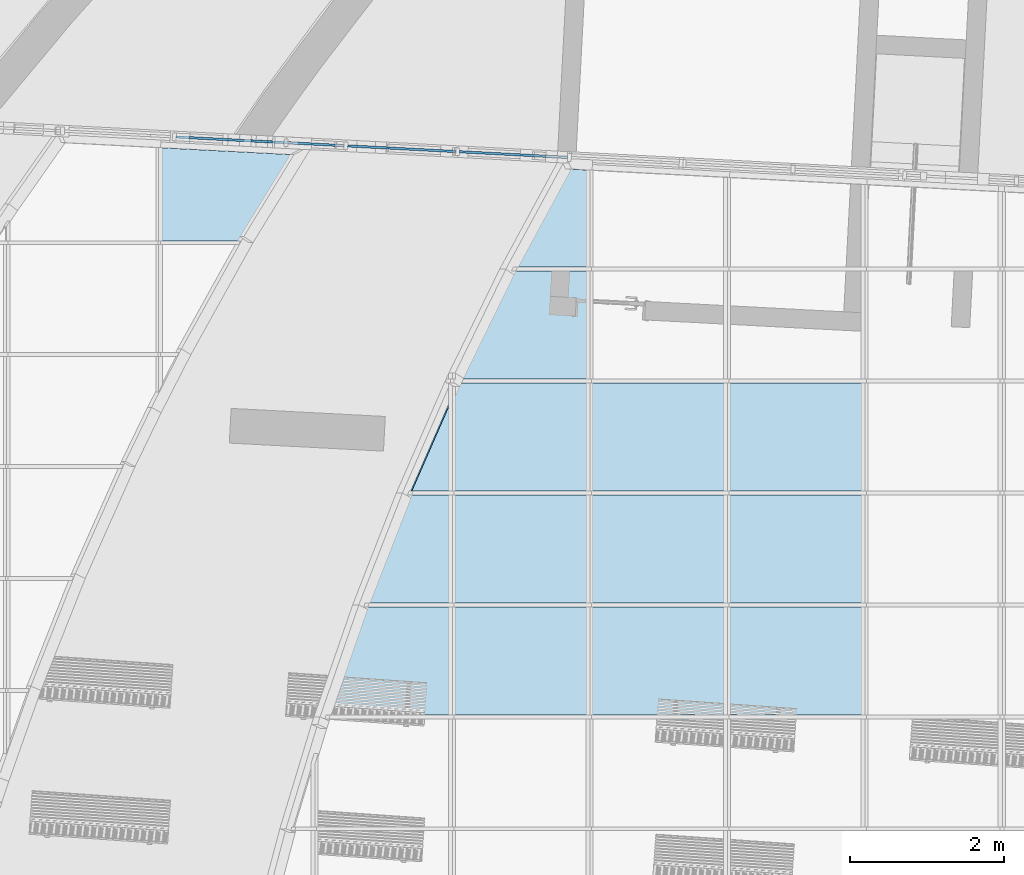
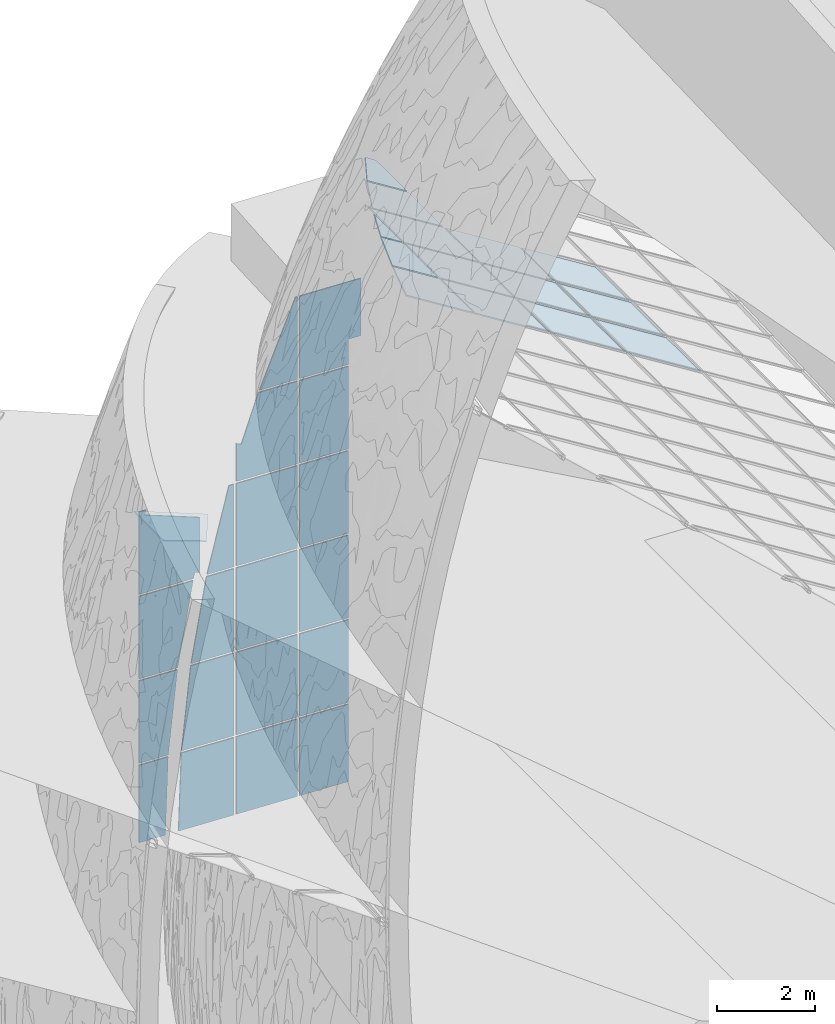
# One storey, part 43 of 82: 35 plates, 2 elements without a shape of their own.
"""IFC2X3 building model written with IfcOpenShell, lengths in millimetres."""

from ifc_helpers import new_model, entity, si_unit, converted_unit, derived_unit, direction, frame, frame_2d, origin, place, context, subcontext, project, spatial, polyline, rectangle, outline, extrude, source, transform, mapped, material, layer, layer_set, layer_usage, type_object, type_shapes, element, aggregate, save


model = new_model("IFC2X3")

# Units and contexts
model_context = context("Model", 3, precision=0.01, world=origin(), true_north=direction((6.12303176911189e-17, 1.0)))
body_context = subcontext(model_context, "Body", "Model", "MODEL_VIEW")
ifc_project = project(units=[si_unit("LENGTHUNIT", "METRE", prefix="MILLI"), si_unit("AREAUNIT", "SQUARE_METRE"), si_unit("VOLUMEUNIT", "CUBIC_METRE"), converted_unit("PLANEANGLEUNIT", "DEGREE", entity("IfcRatioMeasure", 0.0174532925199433), si_unit("PLANEANGLEUNIT", "RADIAN"), dimensions=[0, 0, 0, 0, 0, 0, 0]), si_unit("MASSUNIT", "GRAM", prefix="KILO"), derived_unit("MASSDENSITYUNIT", [(si_unit("MASSUNIT", "GRAM", prefix="KILO"), 1), (si_unit("LENGTHUNIT", "METRE"), -3)]), si_unit("TIMEUNIT", "SECOND"), si_unit("FREQUENCYUNIT", "HERTZ"), si_unit("THERMODYNAMICTEMPERATUREUNIT", "DEGREE_CELSIUS"), derived_unit("THERMALTRANSMITTANCEUNIT", [(si_unit("MASSUNIT", "GRAM", prefix="KILO"), 1), (si_unit("THERMODYNAMICTEMPERATUREUNIT", "KELVIN"), -1), (si_unit("TIMEUNIT", "SECOND"), -3)]), derived_unit("VOLUMETRICFLOWRATEUNIT", [(si_unit("LENGTHUNIT", "METRE"), 3), (si_unit("TIMEUNIT", "SECOND"), -1)]), si_unit("ELECTRICCURRENTUNIT", "AMPERE"), si_unit("ELECTRICVOLTAGEUNIT", "VOLT"), si_unit("POWERUNIT", "WATT"), si_unit("FORCEUNIT", "NEWTON", prefix="KILO"), si_unit("ILLUMINANCEUNIT", "LUX"), si_unit("LUMINOUSFLUXUNIT", "LUMEN"), si_unit("LUMINOUSINTENSITYUNIT", "CANDELA"), derived_unit("USERDEFINED", [(si_unit("MASSUNIT", "GRAM", prefix="KILO"), -1), (si_unit("LENGTHUNIT", "METRE"), -2), (si_unit("TIMEUNIT", "SECOND"), 3), (si_unit("LUMINOUSFLUXUNIT", "LUMEN"), 1)]), derived_unit("LINEARVELOCITYUNIT", [(si_unit("LENGTHUNIT", "METRE"), 1), (si_unit("TIMEUNIT", "SECOND"), -1)]), si_unit("PRESSUREUNIT", "PASCAL"), derived_unit("USERDEFINED", [(si_unit("LENGTHUNIT", "METRE"), -2), (si_unit("MASSUNIT", "GRAM", prefix="KILO"), 1), (si_unit("TIMEUNIT", "SECOND"), -2)])], contexts=[model_context])

# Site, building, storey
site_placement = place(None, origin())
site = spatial("IfcSite", under=ifc_project, at=site_placement, Name="表面", CompositionType="ELEMENT")
building_placement = place(site_placement, origin())
building = spatial("IfcBuilding", under=site, at=building_placement, CompositionType="ELEMENT")
storey_placement = place(building_placement, origin())
storey = spatial("IfcBuildingStorey", under=building, at=storey_placement, Name="1F", CompositionType="ELEMENT", Elevation=0.0)

# Curtain wall, plates
curtain_wall_type = type_object("IfcCurtainWallType", Name="幕墙系统:1450 x 2100mm", PredefinedType="NOTDEFINED")
curtain_wall_1_placement = place(storey_placement, origin())
curtain_wall_1 = element("IfcCurtainWall", 1, at=curtain_wall_1_placement, inside=storey, type_object=curtain_wall_type, Name="幕墙系统:1450 x 2100mm", ObjectType="幕墙系统:1450 x 2100mm")
ifc_material = material(Name="<Unnamed>")
ifc_layer = layer(ifc_material, 30.0)
ifc_layer_set = layer_set([ifc_layer], Name="幕墙系统:1450 x 2100mm")
ifc_layer_usage_1 = layer_usage(ifc_layer_set, "AXIS3", "POSITIVE", 0.0)
plate_type_1 = type_object("IfcPlateType", Name="玻璃", PredefinedType="CURTAIN_PANEL", material=ifc_layer_set)
shared_shape_1 = source(origin(), body_context, "Body", "SweptSolid", [
    extrude(rectangle(XDim=30.0, YDim=1400.0, at=frame_2d((0.0, 3.97903932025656e-13), x_axis=(1.0, 0.0))), frame((0.0, 0.0, 0.0), z_axis=(0.0, 0.0, 1.0), x_axis=(0.0, 1.0, 0.0)), (0.0, 0.0, 1.0), 2050.0),
])
type_shapes(plate_type_1, [shared_shape_1])
plate_1_placement = place(curtain_wall_1_placement, frame((-21721.201817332, -1063.90315351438, 13269.1102335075), z_axis=(-0.848048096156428, 0.0, 0.529919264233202), x_axis=(0.0, -1.0, 0.0)))
plate_1 = element("IfcPlate", 2, at=plate_1_placement, type_object=plate_type_1, material=ifc_layer_usage_1, Name="系统嵌板:玻璃", ObjectType="玻璃", context=body_context, shape_type="MappedRepresentation", body=[
    mapped(shared_shape_1, transform((0.0, 0.0, 0.0), scale=1.0)),
])
ifc_layer_usage_2 = layer_usage(ifc_layer_set, "AXIS3", "POSITIVE", 0.0)
plate_2_placement = place(curtain_wall_1_placement, frame((-21721.201817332, -2513.90315351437, 13269.1102335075), z_axis=(-0.848048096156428, 0.0, 0.529919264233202), x_axis=(0.0, -1.0, 0.0)))
plate_2 = element("IfcPlate", 3, at=plate_2_placement, type_object=plate_type_1, material=ifc_layer_usage_2, Name="系统嵌板:玻璃", ObjectType="玻璃", context=body_context, shape_type="MappedRepresentation", body=[
    mapped(shared_shape_1, transform((0.0, 0.0, 0.0), scale=1.0)),
])
ifc_layer_usage_3 = layer_usage(ifc_layer_set, "AXIS3", "POSITIVE", 0.0)
plate_3_placement = place(curtain_wall_1_placement, frame((-21721.201817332, -3963.90315351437, 13269.1102335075), z_axis=(-0.848048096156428, 0.0, 0.529919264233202), x_axis=(0.0, -1.0, 0.0)))
plate_3 = element("IfcPlate", 4, at=plate_3_placement, type_object=plate_type_1, material=ifc_layer_usage_3, Name="系统嵌板:玻璃", ObjectType="玻璃", context=body_context, shape_type="MappedRepresentation", body=[
    mapped(shared_shape_1, transform((0.0, 0.0, 0.0), scale=1.0)),
])
ifc_layer_usage_4 = layer_usage(ifc_layer_set, "AXIS3", "POSITIVE", 0.0)
plate_4_placement = place(curtain_wall_1_placement, frame((-23502.1028192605, -1063.90315351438, 14381.9406883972), z_axis=(-0.848048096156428, 0.0, 0.529919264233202), x_axis=(0.0, -1.0, 0.0)))
plate_4 = element("IfcPlate", 5, at=plate_4_placement, type_object=plate_type_1, material=ifc_layer_usage_4, Name="系统嵌板:玻璃", ObjectType="玻璃", context=body_context, shape_type="MappedRepresentation", body=[
    mapped(shared_shape_1, transform((0.0, 0.0, 0.0), scale=1.0)),
])
ifc_layer_usage_5 = layer_usage(ifc_layer_set, "AXIS3", "POSITIVE", 0.0)
plate_5_placement = place(curtain_wall_1_placement, frame((-23502.1028192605, -2513.90315351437, 14381.9406883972), z_axis=(-0.848048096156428, 0.0, 0.529919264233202), x_axis=(0.0, -1.0, 0.0)))
plate_5 = element("IfcPlate", 6, at=plate_5_placement, type_object=plate_type_1, material=ifc_layer_usage_5, Name="系统嵌板:玻璃", ObjectType="玻璃", context=body_context, shape_type="MappedRepresentation", body=[
    mapped(shared_shape_1, transform((0.0, 0.0, 0.0), scale=1.0)),
])
ifc_layer_usage_6 = layer_usage(ifc_layer_set, "AXIS3", "POSITIVE", 0.0)
plate_6_placement = place(curtain_wall_1_placement, frame((-23502.1028192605, -3963.90315351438, 14381.9406883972), z_axis=(-0.848048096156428, 0.0, 0.529919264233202), x_axis=(0.0, -1.0, 0.0)))
plate_6 = element("IfcPlate", 7, at=plate_6_placement, type_object=plate_type_1, material=ifc_layer_usage_6, Name="系统嵌板:玻璃", ObjectType="玻璃", context=body_context, shape_type="MappedRepresentation", body=[
    mapped(shared_shape_1, transform((0.0, 0.0, 0.0), scale=1.0)),
])
ifc_layer_usage_7 = layer_usage(ifc_layer_set, "AXIS3", "POSITIVE", 0.0)
plate_7_placement = place(curtain_wall_1_placement, frame((-25283.003821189, -1063.90315351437, 15494.7711432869), z_axis=(-0.848048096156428, 0.0, 0.529919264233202), x_axis=(0.0, -1.0, 0.0)))
plate_7 = element("IfcPlate", 8, at=plate_7_placement, type_object=plate_type_1, material=ifc_layer_usage_7, Name="系统嵌板:玻璃", ObjectType="玻璃", context=body_context, shape_type="MappedRepresentation", body=[
    mapped(shared_shape_1, transform((0.0, 0.0, 0.0), scale=1.0)),
])
ifc_layer_usage_8 = layer_usage(ifc_layer_set, "AXIS3", "POSITIVE", 0.0)
plate_8_placement = place(curtain_wall_1_placement, frame((-25283.003821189, -2513.90315351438, 15494.7711432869), z_axis=(-0.848048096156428, 0.0, 0.529919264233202), x_axis=(0.0, -1.0, 0.0)))
plate_8 = element("IfcPlate", 9, at=plate_8_placement, type_object=plate_type_1, material=ifc_layer_usage_8, Name="系统嵌板:玻璃", ObjectType="玻璃", context=body_context, shape_type="MappedRepresentation", body=[
    mapped(shared_shape_1, transform((0.0, 0.0, 0.0), scale=1.0)),
])
ifc_layer_usage_9 = layer_usage(ifc_layer_set, "AXIS3", "POSITIVE", 0.0)
plate_9_placement = place(curtain_wall_1_placement, frame((-25283.003821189, -3963.90315351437, 15494.7711432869), z_axis=(-0.848048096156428, 0.0, 0.529919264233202), x_axis=(0.0, -1.0, 0.0)))
plate_9 = element("IfcPlate", 10, at=plate_9_placement, type_object=plate_type_1, material=ifc_layer_usage_9, Name="系统嵌板:玻璃", ObjectType="玻璃", context=body_context, shape_type="MappedRepresentation", body=[
    mapped(shared_shape_1, transform((0.0, 0.0, 0.0), scale=1.0)),
])
ifc_layer_usage_10 = layer_usage(ifc_layer_set, "AXIS3", "POSITIVE", 0.0)
plate_10_placement = place(curtain_wall_1_placement, frame((-27694.2813366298, 2670.81273055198, 2125.0), z_axis=(0.0, 0.0, 1.0), x_axis=(0.998629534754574, -0.0523359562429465, 0.0)))
plate_10 = element("IfcPlate", 11, at=plate_10_placement, type_object=plate_type_1, material=ifc_layer_usage_10, Name="系统嵌板:玻璃", ObjectType="玻璃", context=body_context, shape_type="MappedRepresentation", body=[
    mapped(shared_shape_1, transform((0.0, 0.0, 0.0), scale=1.0)),
])
ifc_layer_usage_11 = layer_usage(ifc_layer_set, "AXIS3", "POSITIVE", 0.0)
plate_11_placement = place(curtain_wall_1_placement, frame((-27694.2813366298, 2670.81273055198, 4225.0), z_axis=(0.0, 0.0, 1.0), x_axis=(0.998629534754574, -0.0523359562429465, 0.0)))
plate_11 = element("IfcPlate", 12, at=plate_11_placement, type_object=plate_type_1, material=ifc_layer_usage_11, Name="系统嵌板:玻璃", ObjectType="玻璃", context=body_context, shape_type="MappedRepresentation", body=[
    mapped(shared_shape_1, transform((0.0, 0.0, 0.0), scale=1.0)),
])
ifc_layer_usage_12 = layer_usage(ifc_layer_set, "AXIS3", "POSITIVE", 0.0)
plate_12_placement = place(curtain_wall_1_placement, frame((-27694.2813366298, 2670.81273055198, 6325.0), z_axis=(0.0, 0.0, 1.0), x_axis=(0.998629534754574, -0.0523359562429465, 0.0)))
plate_12 = element("IfcPlate", 13, at=plate_12_placement, type_object=plate_type_1, material=ifc_layer_usage_12, Name="系统嵌板:玻璃", ObjectType="玻璃", context=body_context, shape_type="MappedRepresentation", body=[
    mapped(shared_shape_1, transform((0.0, 0.0, 0.0), scale=1.0)),
])
ifc_layer_usage_13 = layer_usage(ifc_layer_set, "AXIS3", "POSITIVE", 0.0)
plate_type_2 = type_object("IfcPlateType", Name="玻璃", PredefinedType="CURTAIN_PANEL", material=ifc_layer_set)
shared_shape_2 = source(origin(), body_context, "Body", "SweptSolid", [
    extrude(rectangle(XDim=30.0, YDim=1400.0, at=frame_2d((0.0, 3.97903932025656e-13), x_axis=(1.0, 0.0))), frame((0.0, 0.0, 0.0), z_axis=(0.0, 0.0, 1.0), x_axis=(0.0, 1.0, 0.0)), (0.0, 0.0, 1.0), 1925.0),
])
type_shapes(plate_type_2, [shared_shape_2])
plate_13_placement = place(curtain_wall_1_placement, frame((-27694.2813366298, 2670.81273055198, 150.0), z_axis=(0.0, 0.0, 1.0), x_axis=(0.998629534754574, -0.0523359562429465, 0.0)))
plate_13 = element("IfcPlate", 14, at=plate_13_placement, type_object=plate_type_2, material=ifc_layer_usage_13, Name="系统嵌板:玻璃", ObjectType="玻璃", context=body_context, shape_type="MappedRepresentation", body=[
    mapped(shared_shape_2, transform((0.0, 0.0, 0.0), scale=1.0)),
])
ifc_layer_usage_14 = layer_usage(ifc_layer_set, "AXIS3", "POSITIVE", 0.0)
plate_type_3 = type_object("IfcPlateType", Name="玻璃", PredefinedType="CURTAIN_PANEL", material=ifc_layer_set)
shared_shape_3 = source(origin(), body_context, "Body", "SweptSolid", [
    extrude(outline(polyline([(-322.106799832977, -640.756538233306), (-26.9639191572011, -640.756538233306), (727.042127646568, 665.31232442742), (-377.97140865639, 616.200752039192), (-322.106799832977, -640.756538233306)])), frame((3.27612190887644, -15.0, 350.239044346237), z_axis=(0.0, 1.0, 0.0), x_axis=(-0.0444004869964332, 0.0, 0.999013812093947)), (0.0, 0.0, 1.0), 30.0),
])
type_shapes(plate_type_3, [shared_shape_3])
plate_14_placement = place(curtain_wall_1_placement, frame((-25283.003821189, 1771.7481453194, 15494.7711432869), z_axis=(-0.848048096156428, 0.0, 0.529919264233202), x_axis=(0.0, -1.0, 0.0)))
plate_14 = element("IfcPlate", 15, at=plate_14_placement, type_object=plate_type_3, material=ifc_layer_usage_14, Name="系统嵌板:玻璃", ObjectType="玻璃", context=body_context, shape_type="MappedRepresentation", body=[
    mapped(shared_shape_3, transform((0.0, 0.0, 0.0), scale=1.0)),
])
ifc_layer_usage_15 = layer_usage(ifc_layer_set, "AXIS3", "POSITIVE", 0.0)
plate_type_4 = type_object("IfcPlateType", Name="玻璃", PredefinedType="CURTAIN_PANEL", material=ifc_layer_set)
shared_shape_4 = source(origin(), body_context, "Body", "SweptSolid", [
    extrude(outline(polyline([(-1197.71911161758, -919.04519146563), (-56.4441678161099, -919.04519146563), (747.320614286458, 475.541441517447), (852.280888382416, 400.639324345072), (852.280888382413, 480.954808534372), (-1197.7191116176, 480.95480853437), (-1197.71911161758, -919.04519146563)])), frame((219.045191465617, -15.0, 1197.71911161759), z_axis=(0.0, 1.0, 0.0), x_axis=(0.0, 0.0, 1.0)), (0.0, 0.0, 1.0), 30.0),
])
type_shapes(plate_type_4, [shared_shape_4])
plate_15_placement = place(curtain_wall_1_placement, frame((-25283.003821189, 386.096846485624, 15494.7711432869), z_axis=(-0.848048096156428, 0.0, 0.529919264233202), x_axis=(0.0, -1.0, 0.0)))
plate_15 = element("IfcPlate", 16, at=plate_15_placement, type_object=plate_type_4, material=ifc_layer_usage_15, Name="系统嵌板:玻璃", ObjectType="玻璃", context=body_context, shape_type="MappedRepresentation", body=[
    mapped(shared_shape_4, transform((0.0, 0.0, 0.0), scale=1.0)),
])
ifc_layer_usage_16 = layer_usage(ifc_layer_set, "AXIS3", "POSITIVE", 0.0)
plate_type_5 = type_object("IfcPlateType", Name="玻璃", PredefinedType="CURTAIN_PANEL", material=ifc_layer_set)
shared_shape_5 = source(origin(), body_context, "Body", "SweptSolid", [
    extrude(outline(polyline([(-779.041423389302, -177.132236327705), (526.372304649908, -177.132236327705), (252.669118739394, 354.26447265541), (-779.041423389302, -177.132236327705)])), frame((193.420174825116, -15.0, 199.247444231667), z_axis=(0.0, 1.0, 0.0), x_axis=(0.889006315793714, 0.0, 0.457894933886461)), (0.0, 0.0, 1.0), 30.0),
])
type_shapes(plate_type_5, [shared_shape_5])
plate_16_placement = place(curtain_wall_1_placement, frame((-27063.9048231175, -1183.64262903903, 16607.6015981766), z_axis=(-0.848048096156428, 0.0, 0.529919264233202), x_axis=(0.0, -1.0, 0.0)))
plate_16 = element("IfcPlate", 17, at=plate_16_placement, type_object=plate_type_5, material=ifc_layer_usage_16, Name="系统嵌板:玻璃", ObjectType="玻璃", context=body_context, shape_type="MappedRepresentation", body=[
    mapped(shared_shape_5, transform((0.0, 0.0, 0.0), scale=1.0)),
])
ifc_layer_usage_17 = layer_usage(ifc_layer_set, "AXIS3", "POSITIVE", 0.0)
plate_type_6 = type_object("IfcPlateType", Name="玻璃", PredefinedType="CURTAIN_PANEL", material=ifc_layer_set)
shared_shape_6 = source(origin(), body_context, "Body", "SweptSolid", [
    extrude(outline(polyline([(-473.857034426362, -700.0), (151.881885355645, -700.0), (795.83218349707, 700.0), (-473.857034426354, 700.0), (-473.857034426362, -700.0)])), frame((0.0, -15.0, 473.857034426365), z_axis=(0.0, 1.0, 0.0), x_axis=(0.0, 0.0, 1.0)), (0.0, 0.0, 1.0), 30.0),
])
type_shapes(plate_type_6, [shared_shape_6])
plate_17_placement = place(curtain_wall_1_placement, frame((-27063.9048231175, -2513.90315351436, 16607.6015981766), z_axis=(-0.848048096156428, 0.0, 0.529919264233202), x_axis=(0.0, -1.0, 0.0)))
plate_17 = element("IfcPlate", 18, at=plate_17_placement, type_object=plate_type_6, material=ifc_layer_usage_17, Name="系统嵌板:玻璃", ObjectType="玻璃", context=body_context, shape_type="MappedRepresentation", body=[
    mapped(shared_shape_6, transform((0.0, 0.0, 0.0), scale=1.0)),
])
ifc_layer_usage_18 = layer_usage(ifc_layer_set, "AXIS3", "POSITIVE", 0.0)
plate_type_7 = type_object("IfcPlateType", Name="玻璃", PredefinedType="CURTAIN_PANEL", material=ifc_layer_set)
shared_shape_7 = source(origin(), body_context, "Body", "SweptSolid", [
    extrude(outline(polyline([(-790.086258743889, -700.0), (504.400580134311, -700.0), (1075.77193735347, 700.0), (-790.086258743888, 700.0), (-790.086258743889, -700.0)])), frame((0.0, -15.0, 790.086258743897), z_axis=(0.0, 1.0, 0.0), x_axis=(0.0, 0.0, 1.0)), (0.0, 0.0, 1.0), 30.0),
])
type_shapes(plate_type_7, [shared_shape_7])
plate_18_placement = place(curtain_wall_1_placement, frame((-27063.9048231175, -3963.90315351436, 16607.6015981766), z_axis=(-0.848048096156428, 0.0, 0.529919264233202), x_axis=(0.0, -1.0, 0.0)))
plate_18 = element("IfcPlate", 19, at=plate_18_placement, type_object=plate_type_7, material=ifc_layer_usage_18, Name="系统嵌板:玻璃", ObjectType="玻璃", context=body_context, shape_type="MappedRepresentation", body=[
    mapped(shared_shape_7, transform((0.0, 0.0, 0.0), scale=1.0)),
])
ifc_layer_usage_19 = layer_usage(ifc_layer_set, "AXIS3", "POSITIVE", 0.0)
plate_type_8 = type_object("IfcPlateType", Name="玻璃", PredefinedType="CURTAIN_PANEL", material=ifc_layer_set)
shared_shape_8 = source(origin(), body_context, "Body", "SweptSolid", [
    extrude(outline(polyline([(-984.001463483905, -618.254018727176), (942.103307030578, -618.254018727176), (982.897009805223, 585.659127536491), (-940.998853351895, 650.848909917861), (-984.001463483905, -618.254018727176)])), frame((16.3067988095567, -15.0, 962.500000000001), z_axis=(0.0, 1.0, 0.0), x_axis=(0.0338648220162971, 0.0, 0.999426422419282)), (0.0, 0.0, 1.0), 30.0),
])
type_shapes(plate_type_8, [shared_shape_8])
plate_19_placement = place(curtain_wall_1_placement, frame((-29077.2940254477, 2743.2933542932, 150.0), z_axis=(0.0, 0.0, 1.0), x_axis=(0.998629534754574, -0.0523359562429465, 0.0)))
plate_19 = element("IfcPlate", 20, at=plate_19_placement, type_object=plate_type_8, material=ifc_layer_usage_19, Name="系统嵌板:玻璃", ObjectType="玻璃", context=body_context, shape_type="MappedRepresentation", body=[
    mapped(shared_shape_8, transform((0.0, 0.0, 0.0), scale=1.0)),
])
ifc_layer_usage_20 = layer_usage(ifc_layer_set, "AXIS3", "POSITIVE", 0.0)
plate_type_9 = type_object("IfcPlateType", Name="玻璃", PredefinedType="CURTAIN_PANEL", material=ifc_layer_set)
shared_shape_9 = source(origin(), body_context, "Body", "SweptSolid", [
    extrude(rectangle(XDim=30.0, YDim=1119.19697744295, at=frame_2d((0.0, 4.54747350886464e-13), x_axis=(1.0, 0.0))), frame((0.0, 0.0, 0.0), z_axis=(0.0, 0.0, 1.0), x_axis=(0.0, 1.0, 0.0)), (0.0, 0.0, 1.0), 1925.0),
])
type_shapes(plate_type_9, [shared_shape_9])
plate_20_placement = place(curtain_wall_1_placement, frame((-26386.4776071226, 2602.27364135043, 150.0), z_axis=(0.0, 0.0, 1.0), x_axis=(0.998629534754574, -0.0523359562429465, 0.0)))
plate_20 = element("IfcPlate", 21, at=plate_20_placement, type_object=plate_type_9, material=ifc_layer_usage_20, Name="系统嵌板:玻璃", ObjectType="玻璃", context=body_context, shape_type="MappedRepresentation", body=[
    mapped(shared_shape_9, transform((0.0, 0.0, 0.0), scale=1.0)),
])
ifc_layer_usage_21 = layer_usage(ifc_layer_set, "AXIS3", "POSITIVE", 0.0)
plate_type_10 = type_object("IfcPlateType", Name="玻璃", PredefinedType="CURTAIN_PANEL", material=ifc_layer_set)
shared_shape_10 = source(origin(), body_context, "Body", "SweptSolid", [
    extrude(outline(polyline([(-1086.10494259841, -544.900370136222), (974.597959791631, -544.900370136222), (1075.42983463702, 440.568423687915), (-963.922851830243, 649.232316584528), (-1086.10494259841, -544.900370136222)])), frame((52.4383280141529, -15.0, 1025.0), z_axis=(0.0, 1.0, 0.0), x_axis=(0.101787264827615, 0.0, 0.994806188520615)), (0.0, 0.0, 1.0), 30.0),
])
type_shapes(plate_type_10, [shared_shape_10])
plate_21_placement = place(curtain_wall_1_placement, frame((-29042.6145407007, 2741.47587951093, 2125.0), z_axis=(0.0, 0.0, 1.0), x_axis=(0.998629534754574, -0.0523359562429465, 0.0)))
plate_21 = element("IfcPlate", 22, at=plate_21_placement, type_object=plate_type_10, material=ifc_layer_usage_21, Name="系统嵌板:玻璃", ObjectType="玻璃", context=body_context, shape_type="MappedRepresentation", body=[
    mapped(shared_shape_10, transform((0.0, 0.0, 0.0), scale=1.0)),
])
ifc_layer_usage_22 = layer_usage(ifc_layer_set, "AXIS3", "POSITIVE", 0.0)
plate_type_11 = type_object("IfcPlateType", Name="玻璃", PredefinedType="CURTAIN_PANEL", material=ifc_layer_set)
shared_shape_11 = source(origin(), body_context, "Body", "SweptSolid", [
    extrude(rectangle(XDim=30.0, YDim=1119.19697744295, at=frame_2d((0.0, 4.54747350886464e-13), x_axis=(1.0, 0.0))), frame((0.0, 0.0, 0.0), z_axis=(0.0, 0.0, 1.0), x_axis=(0.0, 1.0, 0.0)), (0.0, 0.0, 1.0), 2050.0),
])
type_shapes(plate_type_11, [shared_shape_11])
plate_22_placement = place(curtain_wall_1_placement, frame((-26386.4776071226, 2602.27364135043, 2125.0), z_axis=(0.0, 0.0, 1.0), x_axis=(0.998629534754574, -0.0523359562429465, 0.0)))
plate_22 = element("IfcPlate", 23, at=plate_22_placement, type_object=plate_type_11, material=ifc_layer_usage_22, Name="系统嵌板:玻璃", ObjectType="玻璃", context=body_context, shape_type="MappedRepresentation", body=[
    mapped(shared_shape_11, transform((0.0, 0.0, 0.0), scale=1.0)),
])
ifc_layer_usage_23 = layer_usage(ifc_layer_set, "AXIS3", "POSITIVE", 0.0)
plate_23_placement = place(curtain_wall_1_placement, frame((-26386.4776071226, 2602.27364135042, 4225.0), z_axis=(0.0, 0.0, 1.0), x_axis=(0.998629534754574, -0.0523359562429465, 0.0)))
plate_23 = element("IfcPlate", 24, at=plate_23_placement, type_object=plate_type_11, material=ifc_layer_usage_23, Name="系统嵌板:玻璃", ObjectType="玻璃", context=body_context, shape_type="MappedRepresentation", body=[
    mapped(shared_shape_11, transform((0.0, 0.0, 0.0), scale=1.0)),
])
ifc_layer_usage_24 = layer_usage(ifc_layer_set, "AXIS3", "POSITIVE", 0.0)
plate_24_placement = place(curtain_wall_1_placement, frame((-26386.4776071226, 2602.27364135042, 6325.0), z_axis=(0.0, 0.0, 1.0), x_axis=(0.998629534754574, -0.0523359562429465, 0.0)))
plate_24 = element("IfcPlate", 25, at=plate_24_placement, type_object=plate_type_11, material=ifc_layer_usage_24, Name="系统嵌板:玻璃", ObjectType="玻璃", context=body_context, shape_type="MappedRepresentation", body=[
    mapped(shared_shape_11, transform((0.0, 0.0, 0.0), scale=1.0)),
])
ifc_layer_usage_25 = layer_usage(ifc_layer_set, "AXIS3", "POSITIVE", 0.0)
plate_25_placement = place(curtain_wall_1_placement, frame((-26386.4776071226, 2602.27364135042, 8425.0), z_axis=(0.0, 0.0, 1.0), x_axis=(0.998629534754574, -0.0523359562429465, 0.0)))
plate_25 = element("IfcPlate", 26, at=plate_25_placement, type_object=plate_type_11, material=ifc_layer_usage_25, Name="系统嵌板:玻璃", ObjectType="玻璃", context=body_context, shape_type="MappedRepresentation", body=[
    mapped(shared_shape_11, transform((0.0, 0.0, 0.0), scale=1.0)),
])
ifc_layer_usage_26 = layer_usage(ifc_layer_set, "AXIS3", "POSITIVE", 0.0)
plate_type_12 = type_object("IfcPlateType", Name="玻璃", PredefinedType="CURTAIN_PANEL", material=ifc_layer_set)
shared_shape_12 = source(origin(), body_context, "Body", "SweptSolid", [
    extrude(outline(polyline([(-1108.43400157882, -397.100871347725), (971.718122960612, -397.100871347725), (1078.50040687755, 223.212415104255), (-941.784528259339, 570.989327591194), (-1108.43400157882, -397.100871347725)])), frame((88.2230345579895, -15.0, 1025.0), z_axis=(0.0, 1.0, 0.0), x_axis=(0.169647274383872, 0.0, 0.985504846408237)), (0.0, 0.0, 1.0), 30.0),
])
type_shapes(plate_type_12, [shared_shape_12])
plate_26_placement = place(curtain_wall_1_placement, frame((-28933.744969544, 2735.77026705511, 4225.0), z_axis=(0.0, 0.0, 1.0), x_axis=(0.998629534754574, -0.0523359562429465, 0.0)))
plate_26 = element("IfcPlate", 27, at=plate_26_placement, type_object=plate_type_12, material=ifc_layer_usage_26, Name="系统嵌板:玻璃", ObjectType="玻璃", context=body_context, shape_type="MappedRepresentation", body=[
    mapped(shared_shape_12, transform((0.0, 0.0, 0.0), scale=1.0)),
])
ifc_layer_usage_27 = layer_usage(ifc_layer_set, "AXIS3", "POSITIVE", 0.0)
plate_type_13 = type_object("IfcPlateType", Name="玻璃", PredefinedType="CURTAIN_PANEL", material=ifc_layer_set)
shared_shape_13 = source(origin(), body_context, "Body", "SweptSolid", [
    extrude(outline(polyline([(-1098.68116401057, -177.855226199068), (1011.70753904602, -177.855226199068), (1039.156471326, -65.5927774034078), (-952.182846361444, 421.303229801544), (-1098.68116401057, -177.855226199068)])), frame((125.309735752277, -15.0, 1025.0), z_axis=(0.0, 1.0, 0.0), x_axis=(0.237510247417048, 0.0, 0.971385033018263)), (0.0, 0.0, 1.0), 30.0),
])
type_shapes(plate_type_13, [shared_shape_13])
plate_27_placement = place(curtain_wall_1_placement, frame((-28751.2350345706, 2726.20532666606, 6325.0), z_axis=(0.0, 0.0, 1.0), x_axis=(0.998629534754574, -0.0523359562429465, 0.0)))
plate_27 = element("IfcPlate", 28, at=plate_27_placement, type_object=plate_type_13, material=ifc_layer_usage_27, Name="系统嵌板:玻璃", ObjectType="玻璃", context=body_context, shape_type="MappedRepresentation", body=[
    mapped(shared_shape_13, transform((0.0, 0.0, 0.0), scale=1.0)),
])
ifc_layer_usage_28 = layer_usage(ifc_layer_set, "AXIS3", "POSITIVE", 0.0)
plate_type_14 = type_object("IfcPlateType", Name="玻璃", PredefinedType="CURTAIN_PANEL", material=ifc_layer_set)
shared_shape_14 = source(origin(), body_context, "Body", "SweptSolid", [
    extrude(outline(polyline([(-988.512493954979, -571.093859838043), (-48.9135046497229, -571.093859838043), (-97.0365195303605, -454.022837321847), (1061.48750604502, -61.601723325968), (1061.48750604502, 828.906140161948), (-988.512493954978, 828.906140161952), (-988.512493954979, -571.093859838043)])), frame((-128.906140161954, -15.0, 988.51249395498), z_axis=(0.0, 1.0, 0.0), x_axis=(0.0, 0.0, 1.0)), (0.0, 0.0, 1.0), 30.0),
])
type_shapes(plate_type_14, [shared_shape_14])
plate_28_placement = place(curtain_wall_1_placement, frame((-27694.2813366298, 2670.81273055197, 8425.0), z_axis=(0.0, 0.0, 1.0), x_axis=(0.998629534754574, -0.0523359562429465, 0.0)))
plate_28 = element("IfcPlate", 29, at=plate_28_placement, type_object=plate_type_14, material=ifc_layer_usage_28, Name="系统嵌板:玻璃", ObjectType="玻璃", context=body_context, shape_type="MappedRepresentation", body=[
    mapped(shared_shape_14, transform((0.0, 0.0, 0.0), scale=1.0)),
])
ifc_layer_usage_29 = layer_usage(ifc_layer_set, "AXIS3", "POSITIVE", 0.0)
plate_type_15 = type_object("IfcPlateType", Name="玻璃", PredefinedType="CURTAIN_PANEL", material=ifc_layer_set)
shared_shape_15 = source(origin(), body_context, "Body", "SweptSolid", [
    extrude(outline(polyline([(-1190.00149586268, -211.652776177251), (1019.69350726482, -211.652776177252), (1036.07708414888, -170.930910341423), (-865.769095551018, 594.236462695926), (-1190.00149586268, -211.652776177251)])), frame((206.19347814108, -15.0, 1025.0), z_axis=(0.0, 1.0, 0.0), x_axis=(0.37325237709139, 0.0, 0.927729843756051)), (0.0, 0.0, 1.0), 30.0),
])
type_shapes(plate_type_15, [shared_shape_15])
plate_29_placement = place(curtain_wall_1_placement, frame((-27428.979428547, 2656.9088467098, 10525.0), z_axis=(0.0, 0.0, 1.0), x_axis=(0.998629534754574, -0.0523359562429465, 0.0)))
plate_29 = element("IfcPlate", 30, at=plate_29_placement, type_object=plate_type_15, material=ifc_layer_usage_29, Name="系统嵌板:玻璃", ObjectType="玻璃", context=body_context, shape_type="MappedRepresentation", body=[
    mapped(shared_shape_15, transform((0.0, 0.0, 0.0), scale=1.0)),
])
ifc_layer_usage_30 = layer_usage(ifc_layer_set, "AXIS3", "POSITIVE", 0.0)
plate_type_16 = type_object("IfcPlateType", Name="玻璃", PredefinedType="CURTAIN_PANEL", material=ifc_layer_set)
shared_shape_16 = source(origin(), body_context, "Body", "SweptSolid", [
    extrude(outline(polyline([(-891.666666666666, -839.732325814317), (1158.33333333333, -839.732325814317), (1158.33333333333, 560.267674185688), (-266.666666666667, 560.267674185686), (-266.666666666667, 279.46465162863), (-891.666666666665, 279.46465162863), (-891.666666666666, -839.732325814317)])), frame((139.732325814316, -15.0, 891.666666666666), z_axis=(0.0, 1.0, 0.0), x_axis=(0.0, 0.0, 1.0)), (0.0, 0.0, 1.0), 30.0),
])
type_shapes(plate_type_16, [shared_shape_16])
plate_30_placement = place(curtain_wall_1_placement, frame((-26246.2685112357, 2594.9255939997, 10525.0), z_axis=(0.0, 0.0, 1.0), x_axis=(0.998629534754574, -0.0523359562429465, 0.0)))
plate_30 = element("IfcPlate", 31, at=plate_30_placement, type_object=plate_type_16, material=ifc_layer_usage_30, Name="系统嵌板:玻璃", ObjectType="玻璃", context=body_context, shape_type="MappedRepresentation", body=[
    mapped(shared_shape_16, transform((0.0, 0.0, 0.0), scale=1.0)),
])
aggregate(curtain_wall_1, [plate_1, plate_2, plate_3, plate_4, plate_5, plate_6, plate_14, plate_15, plate_7, plate_8, plate_9, plate_16, plate_17, plate_18, plate_19, plate_13, plate_20, plate_21, plate_10, plate_22, plate_26, plate_11, plate_23, plate_27, plate_12, plate_24, plate_28, plate_25, plate_29, plate_30])

curtain_wall_2_placement = place(storey_placement, origin())
curtain_wall_2 = element("IfcCurtainWall", 32, at=curtain_wall_2_placement, inside=storey, type_object=curtain_wall_type, Name="幕墙系统:1450 x 2100mm", ObjectType="幕墙系统:1450 x 2100mm")
ifc_layer_usage_31 = layer_usage(ifc_layer_set, "AXIS3", "POSITIVE", 0.0)
plate_type_17 = type_object("IfcPlateType", Name="玻璃", PredefinedType="CURTAIN_PANEL", material=ifc_layer_set)
shared_shape_17 = source(origin(), body_context, "Body", "SweptSolid", [
    extrude(outline(polyline([(-1057.5867323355, -588.461074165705), (751.189224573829, -588.461074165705), (691.922540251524, 614.991714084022), (-385.525032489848, 561.930434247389), (-1057.5867323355, -588.461074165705)])), frame((22.2423337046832, -15.0, 1085.2515682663), z_axis=(0.0, 1.0, 0.0), x_axis=(-0.0491875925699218, 0.0, 0.998789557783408)), (0.0, 0.0, 1.0), 30.0),
])
type_shapes(plate_type_17, [shared_shape_17])
plate_31_placement = place(curtain_wall_2_placement, frame((-29115.4335550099, 2080.57891195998, 7917.41944169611), z_axis=(-0.93969262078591, 0.0, 0.342020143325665), x_axis=(0.0, -1.0, 0.0)))
plate_31 = element("IfcPlate", 33, at=plate_31_placement, type_object=plate_type_17, material=ifc_layer_usage_31, Name="系统嵌板:玻璃", ObjectType="玻璃", context=body_context, shape_type="MappedRepresentation", body=[
    mapped(shared_shape_17, transform((0.0, 0.0, 0.0), scale=1.0)),
])
ifc_layer_usage_32 = layer_usage(ifc_layer_set, "AXIS3", "POSITIVE", 0.0)
plate_type_18 = type_object("IfcPlateType", Name="玻璃", PredefinedType="CURTAIN_PANEL", material=ifc_layer_set)
shared_shape_18 = source(origin(), body_context, "Body", "SweptSolid", [
    extrude(outline(polyline([(-962.500000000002, -318.648660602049), (962.500000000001, -318.648660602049), (962.500000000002, 351.323387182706), (-962.500000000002, 285.973934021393), (-962.500000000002, -318.648660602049)])), frame((-16.3373632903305, -15.0, 962.500000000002), z_axis=(0.0, 1.0, 0.0), x_axis=(0.0, 0.0, 1.0)), (0.0, 0.0, 1.0), 30.0),
])
type_shapes(plate_type_18, [shared_shape_18])
plate_32_placement = place(curtain_wall_2_placement, frame((-30281.0521834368, 2805.3344791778, 150.0), z_axis=(0.0, 0.0, 1.0), x_axis=(0.998629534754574, -0.0523359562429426, 0.0)))
plate_32 = element("IfcPlate", 34, at=plate_32_placement, type_object=plate_type_18, material=ifc_layer_usage_32, Name="系统嵌板:玻璃", ObjectType="玻璃", context=body_context, shape_type="MappedRepresentation", body=[
    mapped(shared_shape_18, transform((0.0, 0.0, 0.0), scale=1.0)),
])
ifc_layer_usage_33 = layer_usage(ifc_layer_set, "AXIS3", "POSITIVE", 0.0)
plate_type_19 = type_object("IfcPlateType", Name="玻璃", PredefinedType="CURTAIN_PANEL", material=ifc_layer_set)
shared_shape_19 = source(origin(), body_context, "Body", "SweptSolid", [
    extrude(outline(polyline([(-1025.0, -388.778213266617), (1025.0, -388.778213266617), (1025.0, 493.652681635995), (-1025.0, 283.903744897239), (-1025.0, -388.778213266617)])), frame((-52.43723418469, -15.0, 1025.0), z_axis=(0.0, 1.0, 0.0), x_axis=(0.0, 0.0, 1.0)), (0.0, 0.0, 1.0), 30.0),
])
type_shapes(plate_type_19, [shared_shape_19])
plate_33_placement = place(curtain_wall_2_placement, frame((-30174.9683436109, 2799.77486071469, 2125.0), z_axis=(0.0, 0.0, 1.0), x_axis=(0.998629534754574, -0.0523359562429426, 0.0)))
plate_33 = element("IfcPlate", 35, at=plate_33_placement, type_object=plate_type_19, material=ifc_layer_usage_33, Name="系统嵌板:玻璃", ObjectType="玻璃", context=body_context, shape_type="MappedRepresentation", body=[
    mapped(shared_shape_19, transform((0.0, 0.0, 0.0), scale=1.0)),
])
ifc_layer_usage_34 = layer_usage(ifc_layer_set, "AXIS3", "POSITIVE", 0.0)
plate_type_20 = type_object("IfcPlateType", Name="玻璃", PredefinedType="CURTAIN_PANEL", material=ifc_layer_set)
shared_shape_20 = source(origin(), body_context, "Body", "SweptSolid", [
    extrude(outline(polyline([(-1025.0, -532.155768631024), (1025.0, -532.155768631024), (1025.0, 708.598079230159), (-1025.0, 355.713458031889), (-1025.0, -532.155768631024)])), frame((-88.221155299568, -15.0, 1025.0), z_axis=(0.0, 1.0, 0.0), x_axis=(0.0, 0.0, 1.0)), (0.0, 0.0, 1.0), 30.0),
])
type_shapes(plate_type_20, [shared_shape_20])
plate_34_placement = place(curtain_wall_2_placement, frame((-29996.0524017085, 2790.39827352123, 4225.0), z_axis=(0.0, 0.0, 1.0), x_axis=(0.998629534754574, -0.0523359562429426, 0.0)))
plate_34 = element("IfcPlate", 36, at=plate_34_placement, type_object=plate_type_20, material=ifc_layer_usage_34, Name="系统嵌板:玻璃", ObjectType="玻璃", context=body_context, shape_type="MappedRepresentation", body=[
    mapped(shared_shape_20, transform((0.0, 0.0, 0.0), scale=1.0)),
])
ifc_layer_usage_35 = layer_usage(ifc_layer_set, "AXIS3", "POSITIVE", 0.0)
plate_type_21 = type_object("IfcPlateType", Name="玻璃", PredefinedType="CURTAIN_PANEL", material=ifc_layer_set)
shared_shape_21 = source(origin(), body_context, "Body", "SweptSolid", [
    extrude(outline(polyline([(-968.611939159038, -703.151933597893), (1081.38806084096, -703.151933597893), (1081.38806084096, -528.646401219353), (965.411580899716, -579.887323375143), (501.354748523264, 696.848066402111), (-861.578090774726, 696.848066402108), (-830.740482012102, 575.052147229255), (-968.611939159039, 546.089311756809), (-968.611939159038, -703.151933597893)])), frame((3.1519335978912, -15.0, 968.61193915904), z_axis=(0.0, 1.0, 0.0), x_axis=(0.0, 0.0, 1.0)), (0.0, 0.0, 1.0), 30.0),
])
type_shapes(plate_type_21, [shared_shape_21])
plate_35_placement = place(curtain_wall_2_placement, frame((-29916.5384462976, 2786.23112369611, 6325.0), z_axis=(0.0, 0.0, 1.0), x_axis=(0.998629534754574, -0.0523359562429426, 0.0)))
plate_35 = element("IfcPlate", 37, at=plate_35_placement, type_object=plate_type_21, material=ifc_layer_usage_35, Name="系统嵌板:玻璃", ObjectType="玻璃", context=body_context, shape_type="MappedRepresentation", body=[
    mapped(shared_shape_21, transform((0.0, 0.0, 0.0), scale=1.0)),
])
aggregate(curtain_wall_2, [plate_31, plate_32, plate_33, plate_34, plate_35])

save(model, "model.ifc")
